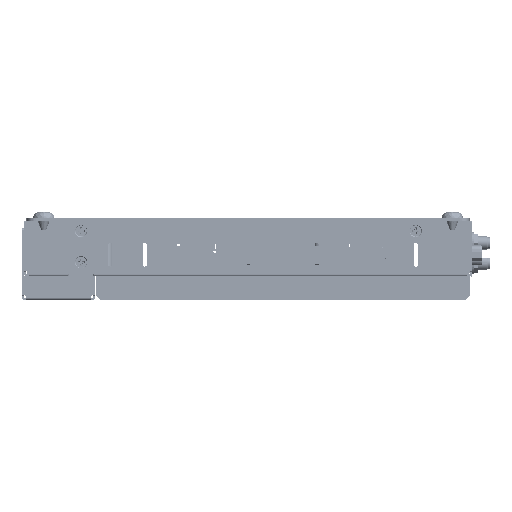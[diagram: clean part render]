
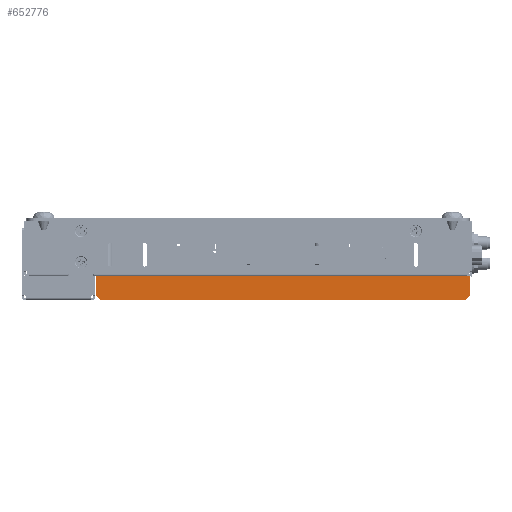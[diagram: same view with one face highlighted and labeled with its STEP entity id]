
A CAD part, left-side view. The second image highlights one B-rep face of the part: STEP entity #652776.
In plain terms, the highlighted planar face has unit normal (-1, 0, 0).
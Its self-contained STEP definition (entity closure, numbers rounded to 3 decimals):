
#145736=DIRECTION('',(0.,1.,0.));
#145737=VECTOR('',#145736,173.5);
#145738=CARTESIAN_POINT('',(-123.5,1.,-22.5));
#145739=LINE('',#145738,#145737);
#188583=DIRECTION('',(0.,0.,-1.));
#188584=VECTOR('',#188583,9.);
#188585=CARTESIAN_POINT('',(-123.5,1.,-22.5));
#188586=LINE('',#188585,#188584);
#188587=DIRECTION('',(0.,0.707,-0.707));
#188588=VECTOR('',#188587,2.828);
#188589=CARTESIAN_POINT('',(-123.5,1.,-31.5));
#188590=LINE('',#188589,#188588);
#188591=DIRECTION('',(0.,0.707,0.707));
#188592=VECTOR('',#188591,2.828);
#188593=CARTESIAN_POINT('',(-123.5,172.5,-33.5));
#188594=LINE('',#188593,#188592);
#188595=DIRECTION('',(0.,0.,1.));
#188596=VECTOR('',#188595,9.);
#188597=CARTESIAN_POINT('',(-123.5,174.5,-31.5));
#188598=LINE('',#188597,#188596);
#193171=DIRECTION('',(0.,1.,0.));
#193172=VECTOR('',#193171,169.5);
#193173=CARTESIAN_POINT('',(-123.5,3.,-33.5));
#193174=LINE('',#193173,#193172);
#285071=CARTESIAN_POINT('',(-123.5,1.,-31.5));
#285072=CARTESIAN_POINT('',(-123.5,3.,-33.5));
#285073=VERTEX_POINT('',#285071);
#285074=VERTEX_POINT('',#285072);
#285324=CARTESIAN_POINT('',(-123.5,174.5,-31.5));
#285326=VERTEX_POINT('',#285324);
#285805=CARTESIAN_POINT('',(-123.5,172.5,-33.5));
#285806=VERTEX_POINT('',#285805);
#360074=CARTESIAN_POINT('',(-123.5,1.,-22.5));
#360076=VERTEX_POINT('',#360074);
#360100=CARTESIAN_POINT('',(-123.5,174.5,-22.5));
#360101=VERTEX_POINT('',#360100);
#652760=CARTESIAN_POINT('',(-123.5,87.75,-28.));
#652761=DIRECTION('',(1.,0.,0.));
#652762=DIRECTION('',(0.,0.,1.));
#652763=AXIS2_PLACEMENT_3D('',#652760,#652761,#652762);
#652764=PLANE('',#652763);
#652765=ORIENTED_EDGE('',*,*,#564241,.F.);
#652766=ORIENTED_EDGE('',*,*,#594245,.T.);
#652768=ORIENTED_EDGE('',*,*,#652767,.T.);
#652770=ORIENTED_EDGE('',*,*,#652769,.T.);
#652772=ORIENTED_EDGE('',*,*,#652771,.T.);
#652773=ORIENTED_EDGE('',*,*,#652265,.T.);
#652774=EDGE_LOOP('',(#652765,#652766,#652768,#652770,#652772,#652773));
#652775=FACE_OUTER_BOUND('',#652774,.F.);
#652776=ADVANCED_FACE('',(#652775),#652764,.F.);
#564241=EDGE_CURVE('',#360076,#360101,#145739,.T.);
#594245=EDGE_CURVE('',#360076,#285073,#188586,.T.);
#652265=EDGE_CURVE('',#285326,#360101,#188598,.T.);
#652767=EDGE_CURVE('',#285073,#285074,#188590,.T.);
#652769=EDGE_CURVE('',#285074,#285806,#193174,.T.);
#652771=EDGE_CURVE('',#285806,#285326,#188594,.T.);
